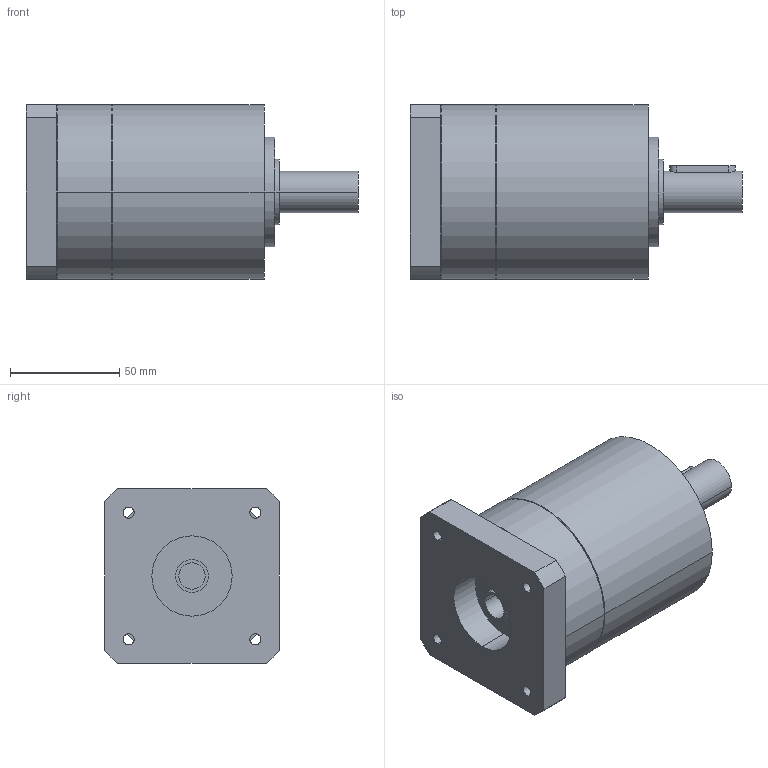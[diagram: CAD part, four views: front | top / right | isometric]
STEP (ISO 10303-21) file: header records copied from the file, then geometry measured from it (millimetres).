
FILE_DESCRIPTION(('CoCreate Modeling STEP Export'),'2;1');
FILE_NAME('GPR100_ig-3-4-5-6_19_B14_12_P27.stp','2014-08-26T10:06:15',(''),(''),'CoCreate Modeling STEP processor for AP214 (Solid Model)','CoCreate Modeling 16.00C 25-Feb-2009 (C) Parametric Technology GmbH','');
FILE_SCHEMA(('AUTOMOTIVE_DESIGN { 1 0 10303 214 1 1 1 1 }'));
Length unit declared in the file: millimetre
Products named in the file (2): GPR100_ig-3-4-5-6_19_B14_12_P27
Assembly tree (1 placements, depth 2):
  GPR100_ig-3-4-5-6_19_B14_12_P27
    GPR100_ig-3-4-5-6_19_B14_12_P27
Bounding box: 152 x 80 x 80 mm (x, y, z)
Volume: 568490.9 mm3; surface area: 49368.2 mm2
Topology: 1 solids, 1 shells, 71 faces, 193 edges, 131 vertices
Faces by surface type: cylinder 40, plane 25, cone 6
Entity records: 1947 total; most frequent: ORIENTED_EDGE 382, CARTESIAN_POINT 359, DIRECTION 264, EDGE_CURVE 191, VERTEX_POINT 131, AXIS2_PLACEMENT_3D 100, EDGE_LOOP 88, FACE_OUTER_BOUND 71
